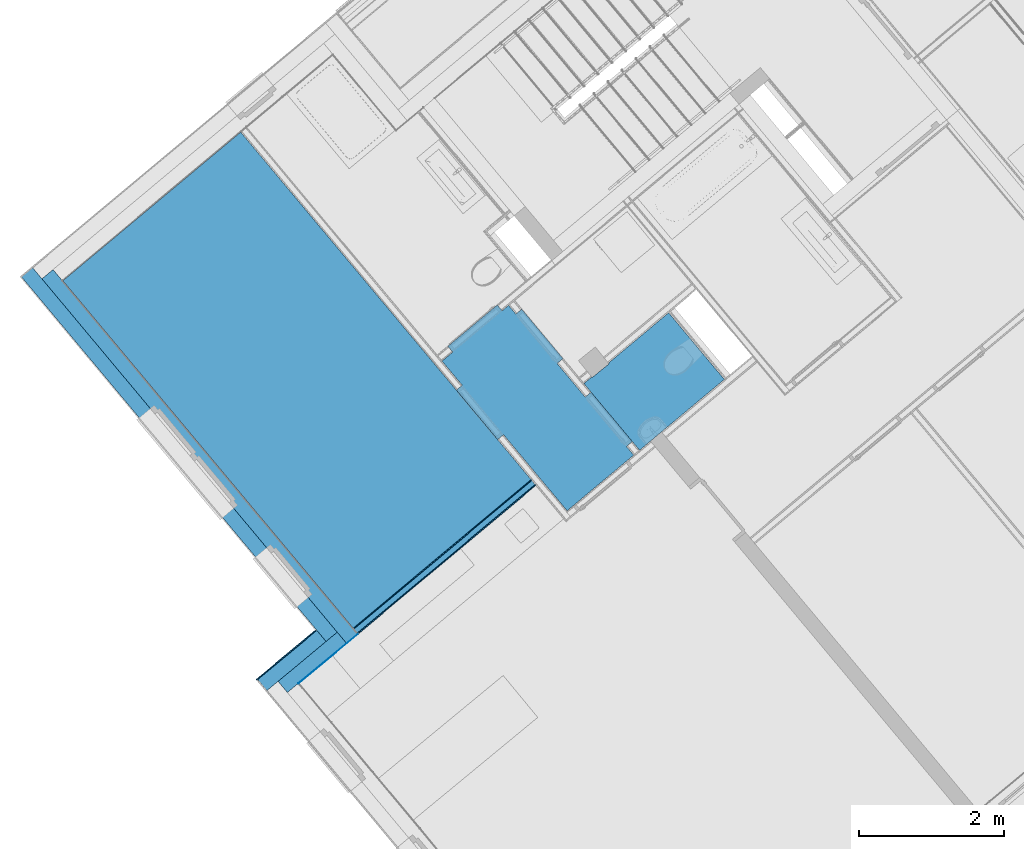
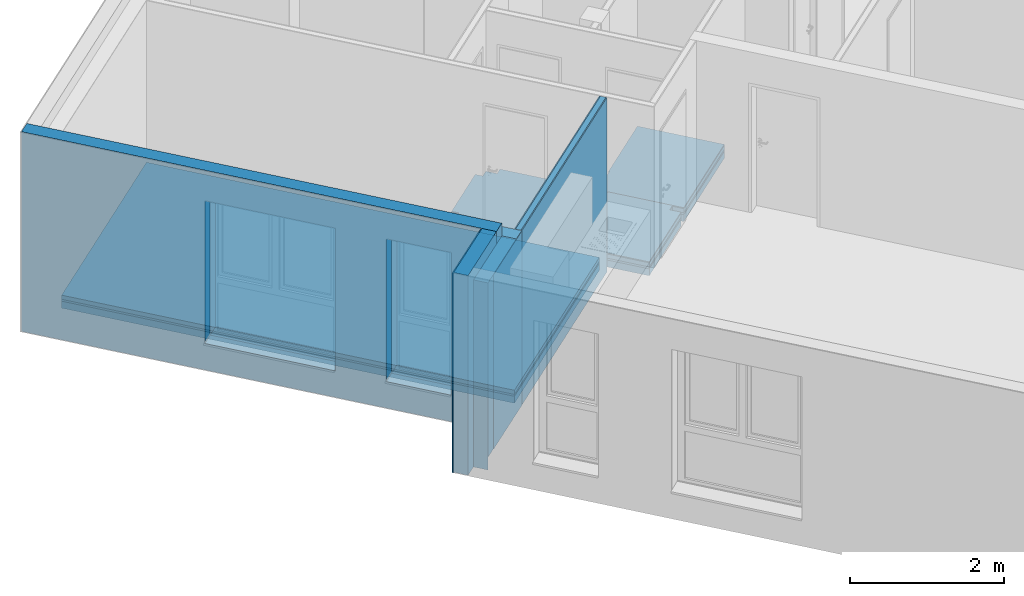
# One storey, part 23 of 50: 21 building element parts, 2 openings, 6 elements without a shape of their own.
"""IFC4 building model written with IfcOpenShell, lengths in metres."""

from ifc_helpers import new_model, entity, si_unit, converted_unit, derived_unit, direction, frame, origin_with_axes, place, context, subcontext, project, spatial, polygons, material, type_object, element, aggregate, save


model = new_model("IFC4")

# Units and contexts
model_context = context("Model", 3, precision=1e-05, world=origin_with_axes(), true_north=direction((0.0, 1.0)))
body_context = subcontext(model_context, "Body", "Model", "MODEL_VIEW")
ifc_project = project(units=[si_unit("LENGTHUNIT", "METRE"), si_unit("AREAUNIT", "SQUARE_METRE"), si_unit("VOLUMEUNIT", "CUBIC_METRE"), converted_unit("PLANEANGLEUNIT", "DEGREE", entity("IfcPlaneAngleMeasure", 0.0174532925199), si_unit("PLANEANGLEUNIT", "RADIAN"), dimensions=[0, 0, 0, 0, 0, 0, 0]), converted_unit("TIMEUNIT", "Year", entity("IfcTimeMeasure", 31556926.0), si_unit("TIMEUNIT", "SECOND"), dimensions=[0, 0, 1, 0, 0, 0, 0]), si_unit("MASSUNIT", "GRAM", prefix="KILO"), si_unit("THERMODYNAMICTEMPERATUREUNIT", "DEGREE_CELSIUS"), si_unit("LUMINOUSINTENSITYUNIT", "LUMEN"), si_unit("ENERGYUNIT", "JOULE", prefix="MEGA"), derived_unit("THERMALCONDUCTANCEUNIT", [(si_unit("POWERUNIT", "WATT"), 1), (si_unit("LENGTHUNIT", "METRE"), -1), (si_unit("THERMODYNAMICTEMPERATUREUNIT", "KELVIN"), -1)]), derived_unit("SPECIFICHEATCAPACITYUNIT", [(si_unit("ENERGYUNIT", "JOULE"), 1), (si_unit("MASSUNIT", "GRAM", prefix="KILO"), -1), (si_unit("THERMODYNAMICTEMPERATUREUNIT", "KELVIN"), -1)]), derived_unit("MASSDENSITYUNIT", [(si_unit("MASSUNIT", "GRAM", prefix="KILO"), 1), (si_unit("VOLUMEUNIT", "CUBIC_METRE"), -1)])], contexts=[model_context])

# Site, building, storey
site_placement = place(None, frame((-0.00153261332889, -0.00661245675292, 0.0), z_axis=(0.0, 0.0, 1.0), x_axis=(1.0, 0.0, 0.0)))
site = spatial("IfcSite", under=ifc_project, at=site_placement, Name="Site", CompositionType="ELEMENT")
building_placement = place(site_placement, origin_with_axes())
building = spatial("IfcBuilding", under=site, at=building_placement, Name="Building", CompositionType="ELEMENT")
storey_placement = place(building_placement, frame((0.0, 0.0, 2.74), z_axis=(0.0, 0.0, 1.0), x_axis=(1.0, 0.0, 0.0)))
storey = spatial("IfcBuildingStorey", under=building, at=storey_placement, Name="OG1", CompositionType="ELEMENT", Elevation=2.74)

# Wall, building element parts
wall_type_1 = type_object("IfcWallType", Name="IW LB 01 Leichtbautrennwand einfach 10,5 cm 105", PredefinedType="NOTDEFINED")
wall_1_placement = place(storey_placement, frame((-2.49988703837, 17.264591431, 0.0), z_axis=(0.0, 0.0, 1.0), x_axis=(-0.767365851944, -0.641209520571, 0.0)))
wall_1 = element("IfcWall", 1, at=wall_1_placement, inside=storey, type_object=wall_type_1, Name="Wand-012", PredefinedType="NOTDEFINED")
ifc_material_1 = material(Name="Gipskarton")
building_element_part_1_placement = place(wall_1_placement, origin_with_axes())
building_element_part_1 = element("IfcBuildingElementPart", 2, at=building_element_part_1_placement, material=ifc_material_1, Name="Gipskarton", PredefinedType="NOTDEFINED", context=body_context, shape_type="Tessellation", body=[
    polygons([(3.20025354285, 0.105, 0.0), (3.20025354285, 0.09, 0.0), (0.0, 0.09, 0.0), (0.0, 0.105, 0.0), (3.20025354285, 0.105, 2.76), (3.20025354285, 0.09, 2.76), (0.0, 0.09, 2.76), (0.0, 0.105, 2.76)], [[[1, 2, 3, 4]], [[1, 5, 6, 2]], [[2, 6, 7, 3]], [[4, 3, 7, 8]], [[5, 1, 4, 8]], [[6, 5, 8, 7]]], closed=True),
])
ifc_material_2 = material(Name="Mineralwolle weich")
building_element_part_2_placement = place(wall_1_placement, origin_with_axes())
building_element_part_2 = element("IfcBuildingElementPart", 3, at=building_element_part_2_placement, material=ifc_material_2, Name="Mineralwolle weich", PredefinedType="NOTDEFINED", context=body_context, shape_type="Tessellation", body=[
    polygons([(3.20025354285, 0.09, 0.0), (3.20025354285, 0.015, 0.0), (0.0, 0.015, 0.0), (0.0, 0.09, 0.0), (3.20025354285, 0.09, 2.76), (3.20025354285, 0.015, 2.76), (0.0, 0.015, 2.76), (0.0, 0.09, 2.76)], [[[1, 2, 3, 4]], [[1, 5, 6, 2]], [[2, 6, 7, 3]], [[4, 3, 7, 8]], [[5, 1, 4, 8]], [[6, 5, 8, 7]]], closed=True),
])
building_element_part_3_placement = place(wall_1_placement, origin_with_axes())
building_element_part_3 = element("IfcBuildingElementPart", 4, at=building_element_part_3_placement, material=ifc_material_1, Name="Gipskarton", PredefinedType="NOTDEFINED", context=body_context, shape_type="Tessellation", body=[
    polygons([(3.20025354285, 0.015, 0.0), (3.20025354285, 0.0, 0.0), (0.0, 0.0, 0.0), (0.0, 0.015, 0.0), (3.20025354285, 0.015, 2.76), (3.20025354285, 0.0, 2.76), (0.0, 0.0, 2.76), (0.0, 0.015, 2.76)], [[[1, 2, 3, 4]], [[1, 5, 6, 2]], [[2, 6, 7, 3]], [[4, 3, 7, 8]], [[5, 1, 4, 8]], [[6, 5, 8, 7]]], closed=True),
])
aggregate(wall_1, [building_element_part_1, building_element_part_2, building_element_part_3])

# Wall, openings, building element parts
wall_type_2 = type_object("IfcWallType", Name="AW EG 420", PredefinedType="NOTDEFINED")
wall_2_placement = place(storey_placement, frame((-9.41819565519, 19.8980836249, -0.2), z_axis=(0.0, 0.0, 1.0), x_axis=(0.641209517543, -0.767365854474, 0.0)))
wall_2 = element("IfcWall", 5, at=wall_2_placement, inside=storey, type_object=wall_type_2, Name="Wand-002", PredefinedType="NOTDEFINED")
opening_1_placement = place(wall_2_placement, frame((3.23195130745, 0.0, 0.42), z_axis=(0.0, 0.0, 1.0), x_axis=(1.0, 0.0, 0.0)))
element("IfcOpeningElement", 6, at=opening_1_placement, cuts=wall_2, Name="Fenster-001", context=body_context, identifier="Reference", shape_type="Tessellation", body=[
    polygons([(0.9, 0.215, 0.0), (0.9, 0.215, 2.26), (0.9, -3.02322744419, 2.26), (0.9, -3.02322744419, 0.0), (0.9, 3.44322744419, 0.0), (0.9, 3.44322744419, 2.26), (-0.9, 0.215, 2.26), (-0.9, -3.02322744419, 2.26), (-0.9, 3.44322744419, 2.26), (-0.9, -3.02322744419, 0.0), (-0.9, 0.215, 0.0), (-0.9, 3.44322744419, 0.0)], [[[1, 2, 3, 4]], [[2, 1, 5, 6]], [[7, 8, 3, 2, 6, 9]], [[8, 10, 4, 3]], [[1, 4, 10, 11, 12, 5]], [[6, 5, 12, 9]], [[7, 11, 10, 8]], [[11, 7, 9, 12]]], closed=True),
])
opening_2_placement = place(wall_2_placement, frame((5.28601932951, 0.0, 0.42), z_axis=(0.0, 0.0, 1.0), x_axis=(1.0, 0.0, 0.0)))
element("IfcOpeningElement", 7, at=opening_2_placement, cuts=wall_2, Name="Fenster-001", context=body_context, identifier="Reference", shape_type="Tessellation", body=[
    polygons([(0.45, 0.215, 0.0), (0.45, 0.215, 2.26), (0.45, -3.02322744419, 2.26), (0.45, -3.02322744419, 0.0), (0.45, 3.44322744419, 0.0), (0.45, 3.44322744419, 2.26), (-0.45, 0.215, 2.26), (-0.45, -3.02322744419, 2.26), (-0.45, 3.44322744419, 2.26), (-0.45, -3.02322744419, 0.0), (-0.45, 0.215, 0.0), (-0.45, 3.44322744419, 0.0)], [[[1, 2, 3, 4]], [[2, 1, 5, 6]], [[7, 8, 3, 2, 6, 9]], [[8, 10, 4, 3]], [[1, 4, 10, 11, 12, 5]], [[6, 5, 12, 9]], [[7, 11, 10, 8]], [[11, 7, 9, 12]]], closed=True),
])
ifc_material_3 = material(Name="Stahlbeton Wand")
building_element_part_4_placement = place(wall_2_placement, origin_with_axes())
building_element_part_4 = element("IfcBuildingElementPart", 8, at=building_element_part_4_placement, material=ifc_material_3, Name="Stahlbeton Wand", PredefinedType="NOTDEFINED", context=body_context, shape_type="Tessellation", body=[
    polygons([(6.35775052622, 0.215, 2.96), (3.41079591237e-08, 0.214999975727, 2.96), (3.41079591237e-08, 0.214999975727, 0.2), (6.35154585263, 0.215000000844, 0.2), (6.55775115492, 0.215, 0.2), (6.55775115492, 0.215, 2.96), (2.33195130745, 0.215, 2.68), (4.13195130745, 0.215, 2.68), (4.13195130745, 0.215, 0.42), (2.33195130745, 0.215, 0.42), (4.83601932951, 0.215, 0.42), (4.83601932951, 0.215, 2.68), (5.73601932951, 0.215, 2.68), (5.73601932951, 0.215, 0.42), (6.55825263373, 0.415, 2.96), (8.15811869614e-07, 0.415000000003, 2.96), (3.33203509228e-08, 0.415, 0.2), (6.55825263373, 0.415, 0.2), (4.13195130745, 0.415000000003, 2.68), (2.33195130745, 0.415000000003, 2.68), (4.13195130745, 0.415000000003, 0.42), (2.33195130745, 0.415000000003, 0.42), (4.83601932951, 0.415, 0.42), (4.83601932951, 0.415, 2.68), (5.73601932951, 0.415, 2.68), (5.73601932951, 0.415, 0.42)], [[[1, 2, 3, 4, 5, 6], [7, 8, 9, 10], [11, 12, 13, 14]], [[1, 6, 15, 16, 2]], [[17, 3, 2, 16]], [[17, 18, 5, 4, 3]], [[5, 18, 15, 6]], [[19, 8, 7, 20]], [[21, 9, 8, 19]], [[22, 10, 9, 21]], [[20, 7, 10, 22]], [[23, 24, 12, 11]], [[24, 25, 13, 12]], [[25, 26, 14, 13]], [[26, 23, 11, 14]], [[18, 17, 16, 15], [21, 19, 20, 22], [23, 26, 25, 24]]], closed=True),
])
ifc_material_4 = material(Name="EPS 1")
building_element_part_5_placement = place(wall_2_placement, origin_with_axes())
building_element_part_5 = element("IfcBuildingElementPart", 9, at=building_element_part_5_placement, material=ifc_material_4, Name="EPS 1", PredefinedType="NOTDEFINED", context=body_context, shape_type="Tessellation", body=[
    polygons([(6.35167609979, 0.015, 0.2), (6.35724904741, 0.015, 0.2), (6.35724904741, 0.015, 3.16), (-0.199999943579, 0.015, 3.16), (-0.199999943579, 0.015, 0.0), (6.35167609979, 0.015, 0.0), (2.33195130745, 0.015, 2.68), (4.13195130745, 0.015, 2.68), (4.13195130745, 0.015, 0.42), (2.33195130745, 0.015, 0.42), (4.83601932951, 0.015, 0.42), (4.83601932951, 0.015, 2.68), (5.73601932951, 0.015, 2.68), (5.73601932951, 0.015, 0.42), (6.35154585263, 0.215000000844, 0.2), (6.35775052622, 0.215, 0.2), (6.35775052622, 0.215, 3.16), (-0.199999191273, 0.215, 3.16), (-0.199999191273, 0.215, 0.0), (6.35154585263, 0.215000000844, 0.0), (4.13195130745, 0.215, 2.68), (2.33195130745, 0.215, 2.68), (4.13195130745, 0.215, 0.42), (2.33195130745, 0.215, 0.42), (4.83601932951, 0.215, 0.42), (4.83601932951, 0.215, 2.68), (5.73601932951, 0.215, 2.68), (5.73601932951, 0.215, 0.42)], [[[1, 2, 3, 4, 5, 6], [7, 8, 9, 10], [11, 12, 13, 14]], [[2, 1, 15, 16]], [[17, 3, 2, 16]], [[18, 4, 3, 17]], [[5, 4, 18, 19]], [[5, 19, 20, 6]], [[15, 1, 6, 20]], [[21, 8, 7, 22]], [[23, 9, 8, 21]], [[24, 10, 9, 23]], [[22, 7, 10, 24]], [[25, 26, 12, 11]], [[26, 27, 13, 12]], [[27, 28, 14, 13]], [[28, 25, 11, 14]], [[15, 20, 19, 18, 17, 16], [23, 21, 22, 24], [25, 28, 27, 26]]], closed=True),
])
aggregate(wall_2, [building_element_part_4, building_element_part_5])

# Wall, building element parts
wall_3_placement = place(storey_placement, frame((-5.47975165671, 15.1847608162, -0.2), z_axis=(0.0, 0.0, 1.0), x_axis=(-0.768971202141, -0.639283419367, 0.0)))
wall_3 = element("IfcWall", 10, at=wall_3_placement, inside=storey, type_object=wall_type_2, Name="Wand-002", PredefinedType="NOTDEFINED")
ifc_material_5 = material(Name="Zementputz")
building_element_part_6_placement = place(wall_3_placement, origin_with_axes())
building_element_part_6 = element("IfcBuildingElementPart", 11, at=building_element_part_6_placement, material=ifc_material_5, Name="Zementputz", PredefinedType="NOTDEFINED", context=body_context, shape_type="Tessellation", body=[
    polygons([(-0.41604187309, 0.415, 2.96), (-0.41605441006, 0.42, 2.96), (-0.41605441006, 0.42, 0.2), (-0.41604187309, 0.415, 0.2), (0.6457611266, 0.42, 2.96), (0.645771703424, 0.415, 2.96), (0.6457611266, 0.42, 0.2), (0.645771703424, 0.415, 0.2)], [[[1, 2, 3, 4]], [[5, 2, 1, 6]], [[2, 5, 7, 3]], [[4, 3, 7, 8]], [[6, 1, 4, 8]], [[5, 6, 8, 7]]], closed=True),
])
building_element_part_7_placement = place(wall_3_placement, origin_with_axes())
building_element_part_7 = element("IfcBuildingElementPart", 12, at=building_element_part_7_placement, material=ifc_material_3, Name="Stahlbeton Wand", PredefinedType="NOTDEFINED", context=body_context, shape_type="Tessellation", body=[
    polygons([(-0.215539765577, 0.215, 2.96), (-0.216041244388, 0.415, 2.96), (-0.216041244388, 0.415, 0.2), (-0.215539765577, 0.215, 0.2), (0.8457721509, 0.415, 2.96), (0.846195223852, 0.215, 2.96), (0.8457721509, 0.415, 0.0), (0.845610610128, 0.415, 0.0), (0.845610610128, 0.415, 0.2), (0.846111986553, 0.215, 0.2), (0.846111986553, 0.215, 0.0), (0.846195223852, 0.215, 0.0)], [[[1, 2, 3, 4]], [[5, 2, 1, 6]], [[2, 5, 7, 8, 9, 3]], [[4, 3, 9, 10]], [[6, 1, 4, 10, 11, 12]], [[5, 6, 12, 7]], [[11, 8, 7, 12]], [[9, 8, 11, 10]]], closed=True),
])
building_element_part_8_placement = place(wall_3_placement, origin_with_axes())
building_element_part_8 = element("IfcBuildingElementPart", 13, at=building_element_part_8_placement, material=ifc_material_4, Name="EPS 1", PredefinedType="NOTDEFINED", context=body_context, shape_type="Tessellation", body=[
    polygons([(0.846111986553, 0.215, 0.0), (0.846111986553, 0.215, 0.2), (-0.0155391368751, 0.215, 0.2), (-0.0155391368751, 0.215, 3.16), (1.04619567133, 0.215, 3.16), (1.04619567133, 0.215, 0.0), (0.846119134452, 0.212148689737, 0.0), (0.846119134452, 0.212148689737, 0.2), (-0.0155251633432, 0.209427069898, 0.2), (-0.0155251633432, 0.209427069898, 0.0), (-0.0150376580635, 0.015, 0.0), (-0.0150376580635, 0.015, 3.16), (1.04661874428, 0.015, 3.16), (1.04661874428, 0.015, 0.0)], [[[1, 2, 3, 4, 5, 6]], [[2, 1, 7, 8]], [[9, 3, 2, 8]], [[9, 10, 11, 12, 4, 3]], [[13, 5, 4, 12]], [[14, 6, 5, 13]], [[7, 1, 6, 14, 11, 10]], [[10, 9, 8, 7]], [[14, 13, 12, 11]]], closed=True),
])
building_element_part_9_placement = place(wall_3_placement, origin_with_axes())
building_element_part_9 = element("IfcBuildingElementPart", 14, at=building_element_part_9_placement, material=ifc_material_5, Name="Zementputz", PredefinedType="NOTDEFINED", context=body_context, shape_type="Tessellation", body=[
    polygons([(1.06161877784, 0.015, 0.0), (1.06165050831, 0.0, 0.0), (0.0, 0.0, 0.0), (-3.76109108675e-05, 0.015, 0.0), (1.06161877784, 0.015, 3.16), (1.06165050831, 0.0, 3.16), (0.0, 0.0, 3.16), (-3.76109108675e-05, 0.015, 3.16)], [[[1, 2, 3, 4]], [[2, 1, 5, 6]], [[2, 6, 7, 3]], [[8, 4, 3, 7]], [[5, 1, 4, 8]], [[6, 5, 8, 7]]], closed=True),
])
aggregate(wall_3, [building_element_part_6, building_element_part_7, building_element_part_8, building_element_part_9])

# Covering, building element parts
covering_type_1 = type_object("IfcCoveringType", Name="DE 01 Decke Wohnung/Wohnung Parkett 220", PredefinedType="NOTDEFINED")
covering_1_placement = place(storey_placement, frame((-8.96445404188, 20.0100816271, 0.22), z_axis=(0.0, 0.0, 1.0), x_axis=(1.0, 0.0, 0.0)))
covering_1 = element("IfcCovering", 15, at=covering_1_placement, inside=storey, type_object=covering_type_1, Name="Decke-009", PredefinedType="NOTDEFINED")
ifc_material_6 = material(Name="Parkett")
building_element_part_10_placement = place(covering_1_placement, origin_with_axes())
building_element_part_10 = element("IfcBuildingElementPart", 16, at=building_element_part_10_placement, material=ifc_material_6, Name="Parkett", PredefinedType="NOTDEFINED", context=body_context, shape_type="Tessellation", body=[
    polygons([(0.0, 0.0, 0.0), (0.0, 0.0, -0.015), (4.00880176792, -4.79752323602, -0.015), (4.00880176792, -4.79752323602, 0.0), (2.45576526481, 2.05203299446, 0.0), (2.45576526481, 2.05203299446, -0.015), (6.4645670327, -2.74549024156, -0.015), (6.4645670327, -2.74549024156, 0.0)], [[[1, 2, 3, 4]], [[5, 6, 2, 1]], [[3, 2, 6, 7]], [[4, 3, 7, 8]], [[5, 1, 4, 8]], [[8, 7, 6, 5]]], closed=True),
])
ifc_material_7 = material(Name="Estrich")
building_element_part_11_placement = place(covering_1_placement, origin_with_axes())
building_element_part_11 = element("IfcBuildingElementPart", 17, at=building_element_part_11_placement, material=ifc_material_7, Name="Estrich", PredefinedType="NOTDEFINED", context=body_context, shape_type="Tessellation", body=[
    polygons([(0.0, 0.0, -0.015), (0.0, 0.0, -0.08), (4.00880176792, -4.79752323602, -0.08), (4.00880176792, -4.79752323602, -0.015), (2.45576526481, 2.05203299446, -0.015), (2.45576526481, 2.05203299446, -0.08), (6.4645670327, -2.74549024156, -0.08), (6.4645670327, -2.74549024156, -0.015)], [[[1, 2, 3, 4]], [[5, 6, 2, 1]], [[3, 2, 6, 7]], [[4, 3, 7, 8]], [[5, 1, 4, 8]], [[8, 7, 6, 5]]], closed=True),
])
ifc_material_8 = material(Name="Trittschalldämmung")
building_element_part_12_placement = place(covering_1_placement, origin_with_axes())
building_element_part_12 = element("IfcBuildingElementPart", 18, at=building_element_part_12_placement, material=ifc_material_8, Name="Trittschalldämmung", PredefinedType="NOTDEFINED", context=body_context, shape_type="Tessellation", body=[
    polygons([(0.0, 0.0, -0.08), (0.0, 0.0, -0.11), (4.00880176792, -4.79752323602, -0.11), (4.00880176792, -4.79752323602, -0.08), (2.45576526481, 2.05203299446, -0.08), (2.45576526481, 2.05203299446, -0.11), (6.4645670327, -2.74549024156, -0.11), (6.4645670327, -2.74549024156, -0.08)], [[[1, 2, 3, 4]], [[5, 6, 2, 1]], [[3, 2, 6, 7]], [[4, 3, 7, 8]], [[5, 1, 4, 8]], [[8, 7, 6, 5]]], closed=True),
])
ifc_material_9 = material(Name="Schüttung")
building_element_part_13_placement = place(covering_1_placement, origin_with_axes())
building_element_part_13 = element("IfcBuildingElementPart", 19, at=building_element_part_13_placement, material=ifc_material_9, Name="Schüttung", PredefinedType="NOTDEFINED", context=body_context, shape_type="Tessellation", body=[
    polygons([(4.00880176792, -4.79752323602, -0.11), (0.0, 0.0, -0.11), (0.0, 0.0, -0.22), (4.00880176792, -4.79752323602, -0.22), (2.45576526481, 2.05203299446, -0.11), (6.4645670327, -2.74549024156, -0.11), (2.45576526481, 2.05203299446, -0.22), (6.4645670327, -2.74549024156, -0.22)], [[[1, 2, 3, 4]], [[5, 2, 1, 6]], [[2, 5, 7, 3]], [[4, 3, 7, 8]], [[6, 1, 4, 8]], [[5, 6, 8, 7]]], closed=True),
])
aggregate(covering_1, [building_element_part_10, building_element_part_11, building_element_part_12, building_element_part_13])

covering_type_2 = type_object("IfcCoveringType", Name="DE 01 Decke Wohnung/Wohnung Fließen 220", PredefinedType="NOTDEFINED")
covering_2_placement = place(storey_placement, frame((-1.77122830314, 18.5900910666, 0.22), z_axis=(0.0, 0.0, 1.0), x_axis=(1.0, 0.0, 0.0)))
covering_2 = element("IfcCovering", 20, at=covering_2_placement, inside=storey, type_object=covering_type_2, Name="Decke-004", PredefinedType="NOTDEFINED")
ifc_material_10 = material(Name="Fliesen")
building_element_part_14_placement = place(covering_2_placement, origin_with_axes())
building_element_part_14 = element("IfcBuildingElementPart", 21, at=building_element_part_14_placement, material=ifc_material_10, Name="Fliesen", PredefinedType="NOTDEFINED", context=body_context, shape_type="Tessellation", body=[
    polygons([(0.769373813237, -0.920746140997, -0.015), (0.769373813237, -0.920746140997, 0.0), (0.0, 0.0, 0.0), (0.0, 0.0, -0.015), (1.94013256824, 0.0575377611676, -0.015), (1.94013256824, 0.0575377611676, 0.0), (1.170758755, 0.978283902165, 0.0), (0.338580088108, 0.282916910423, 0.0), (0.34712229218, 0.272377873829, 0.0), (0.114063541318, 0.0834767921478, 0.0), (0.108344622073, 0.0905325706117, 0.0), (0.108344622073, 0.0905325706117, -0.015), (0.114063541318, 0.0834767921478, -0.015), (0.34712229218, 0.272377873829, -0.015), (0.338580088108, 0.282916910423, -0.015), (1.170758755, 0.978283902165, -0.015)], [[[1, 2, 3, 4]], [[5, 6, 2, 1]], [[3, 2, 6, 7, 8, 9, 10, 11]], [[4, 3, 11, 12]], [[4, 12, 13, 14, 15, 16, 5, 1]], [[16, 7, 6, 5]], [[15, 8, 7, 16]], [[14, 9, 8, 15]], [[13, 10, 9, 14]], [[12, 11, 10, 13]]], closed=True),
])
building_element_part_15_placement = place(covering_2_placement, origin_with_axes())
building_element_part_15 = element("IfcBuildingElementPart", 22, at=building_element_part_15_placement, material=ifc_material_7, Name="Estrich", PredefinedType="NOTDEFINED", context=body_context, shape_type="Tessellation", body=[
    polygons([(0.769373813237, -0.920746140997, -0.08), (0.769373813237, -0.920746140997, -0.015), (0.0, 0.0, -0.015), (0.0, 0.0, -0.08), (1.94013256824, 0.0575377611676, -0.08), (1.94013256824, 0.0575377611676, -0.015), (1.170758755, 0.978283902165, -0.015), (0.338580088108, 0.282916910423, -0.015), (0.34712229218, 0.272377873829, -0.015), (0.114063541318, 0.0834767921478, -0.015), (0.108344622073, 0.0905325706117, -0.015), (0.108344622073, 0.0905325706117, -0.08), (0.114063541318, 0.0834767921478, -0.08), (0.34712229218, 0.272377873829, -0.08), (0.338580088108, 0.282916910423, -0.08), (1.170758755, 0.978283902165, -0.08)], [[[1, 2, 3, 4]], [[5, 6, 2, 1]], [[3, 2, 6, 7, 8, 9, 10, 11]], [[4, 3, 11, 12]], [[4, 12, 13, 14, 15, 16, 5, 1]], [[16, 7, 6, 5]], [[15, 8, 7, 16]], [[14, 9, 8, 15]], [[13, 10, 9, 14]], [[12, 11, 10, 13]]], closed=True),
])
building_element_part_16_placement = place(covering_2_placement, origin_with_axes())
building_element_part_16 = element("IfcBuildingElementPart", 23, at=building_element_part_16_placement, material=ifc_material_8, Name="Trittschalldämmung", PredefinedType="NOTDEFINED", context=body_context, shape_type="Tessellation", body=[
    polygons([(0.769373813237, -0.920746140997, -0.11), (0.769373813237, -0.920746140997, -0.08), (0.0, 0.0, -0.08), (0.0, 0.0, -0.11), (1.94013256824, 0.0575377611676, -0.11), (1.94013256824, 0.0575377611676, -0.08), (1.170758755, 0.978283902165, -0.08), (0.338580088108, 0.282916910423, -0.08), (0.34712229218, 0.272377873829, -0.08), (0.114063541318, 0.0834767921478, -0.08), (0.108344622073, 0.0905325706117, -0.08), (0.108344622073, 0.0905325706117, -0.11), (0.114063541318, 0.0834767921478, -0.11), (0.34712229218, 0.272377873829, -0.11), (0.338580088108, 0.282916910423, -0.11), (1.170758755, 0.978283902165, -0.11)], [[[1, 2, 3, 4]], [[5, 6, 2, 1]], [[3, 2, 6, 7, 8, 9, 10, 11]], [[4, 3, 11, 12]], [[4, 12, 13, 14, 15, 16, 5, 1]], [[16, 7, 6, 5]], [[15, 8, 7, 16]], [[14, 9, 8, 15]], [[13, 10, 9, 14]], [[12, 11, 10, 13]]], closed=True),
])
building_element_part_17_placement = place(covering_2_placement, origin_with_axes())
building_element_part_17 = element("IfcBuildingElementPart", 24, at=building_element_part_17_placement, material=ifc_material_9, Name="Schüttung", PredefinedType="NOTDEFINED", context=body_context, shape_type="Tessellation", body=[
    polygons([(0.0, 0.0, -0.22), (0.769373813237, -0.920746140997, -0.22), (0.769373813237, -0.920746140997, -0.11), (0.0, 0.0, -0.11), (0.108344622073, 0.0905325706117, -0.22), (0.114063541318, 0.0834767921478, -0.22), (0.34712229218, 0.272377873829, -0.22), (0.338580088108, 0.282916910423, -0.22), (1.170758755, 0.978283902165, -0.22), (1.94013256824, 0.0575377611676, -0.22), (1.94013256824, 0.0575377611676, -0.11), (1.170758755, 0.978283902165, -0.11), (0.338580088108, 0.282916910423, -0.11), (0.34712229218, 0.272377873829, -0.11), (0.114063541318, 0.0834767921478, -0.11), (0.108344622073, 0.0905325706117, -0.11)], [[[1, 2, 3, 4]], [[1, 5, 6, 7, 8, 9, 10, 2]], [[2, 10, 11, 3]], [[4, 3, 11, 12, 13, 14, 15, 16]], [[5, 1, 4, 16]], [[6, 5, 16, 15]], [[7, 6, 15, 14]], [[8, 7, 14, 13]], [[9, 8, 13, 12]], [[10, 9, 12, 11]]], closed=True),
])
aggregate(covering_2, [building_element_part_14, building_element_part_15, building_element_part_16, building_element_part_17])

covering_3_placement = place(storey_placement, frame((-3.58229735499, 19.0241226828, 0.22), z_axis=(0.0, 0.0, 1.0), x_axis=(1.0, 0.0, 0.0)))
covering_3 = element("IfcCovering", 25, at=covering_3_placement, inside=storey, type_object=covering_type_2, Name="Decke-003", PredefinedType="NOTDEFINED")
building_element_part_18_placement = place(covering_3_placement, origin_with_axes())
building_element_part_18 = element("IfcBuildingElementPart", 26, at=building_element_part_18_placement, material=ifc_material_10, Name="Fliesen", PredefinedType="NOTDEFINED", context=body_context, shape_type="Tessellation", body=[
    polygons([(0.772026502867, 0.645686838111, -0.015), (0.772026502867, 0.645686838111, 0.0), (0.871992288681, 0.526053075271, 0.0), (0.871992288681, 0.526053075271, -0.015), (0.682704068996, 0.570977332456, 0.0), (0.682704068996, 0.570977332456, -0.015), (0.6825988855, 0.57110308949, 0.0), (0.615338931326, 0.651518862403, 0.0), (-0.0673464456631, 0.0805191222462, 0.0), (-1.94673654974e-08, -1.62825521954e-08, 0.0), (1.87046381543e-05, -2.24027601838e-05, 0.0), (-0.147735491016, -0.123604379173, 0.0), (0.13108354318, -0.457280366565, 0.0), (0.0505101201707, -0.524607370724, 0.0), (0.621186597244, -1.20756298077, 0.0), (0.701760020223, -1.14023597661, 0.0), (1.57974343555, -2.1909603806, 0.0), (2.49986944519, -1.42210479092, 0.0), (2.40026170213, -1.30289938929, 0.0), (2.48083508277, -1.23557242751, 0.0), (1.91015864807, -0.552616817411, 0.0), (1.82958522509, -0.61994382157, 0.0), (1.44266872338, -0.156902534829, 0.0), (1.52324214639, -0.0895755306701, 0.0), (0.952565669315, 0.59338007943, 0.0), (0.952565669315, 0.59338007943, -0.015), (1.52324214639, -0.0895755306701, -0.015), (1.44266872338, -0.156902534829, -0.015), (1.82958522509, -0.61994382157, -0.015), (1.91015864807, -0.552616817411, -0.015), (2.48083508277, -1.23557242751, -0.015), (2.40026170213, -1.30289938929, -0.015), (2.49986944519, -1.42210479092, -0.015), (1.57974343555, -2.1909603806, -0.015), (0.701760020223, -1.14023597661, -0.015), (0.621186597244, -1.20756298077, -0.015), (0.0505101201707, -0.524607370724, -0.015), (0.13108354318, -0.457280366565, -0.015), (-0.147735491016, -0.123604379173, -0.015), (1.87046381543e-05, -2.24027601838e-05, -0.015), (-1.94673654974e-08, -1.62825521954e-08, -0.015), (-0.0673464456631, 0.0805191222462, -0.015), (0.615338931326, 0.651518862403, -0.015), (0.6825988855, 0.57110308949, -0.015)], [[[1, 2, 3, 4]], [[5, 2, 1, 6]], [[5, 7, 8, 9, 10, 11, 12, 13, 14, 15, 16, 17, 18, 19, 20, 21, 22, 23, 24, 25, 3, 2]], [[26, 4, 3, 25]], [[6, 1, 4, 26, 27, 28, 29, 30, 31, 32, 33, 34, 35, 36, 37, 38, 39, 40, 41, 42, 43, 44]], [[7, 5, 6, 44]], [[7, 44, 43, 8]], [[43, 42, 9, 8]], [[41, 10, 9, 42]], [[11, 10, 41, 40]], [[12, 11, 40, 39]], [[12, 39, 38, 13]], [[38, 37, 14, 13]], [[37, 36, 15, 14]], [[36, 35, 16, 15]], [[35, 34, 17, 16]], [[34, 33, 18, 17]], [[33, 32, 19, 18]], [[32, 31, 20, 19]], [[31, 30, 21, 20]], [[30, 29, 22, 21]], [[29, 28, 23, 22]], [[28, 27, 24, 23]], [[27, 26, 25, 24]]], closed=True),
])
building_element_part_19_placement = place(covering_3_placement, origin_with_axes())
building_element_part_19 = element("IfcBuildingElementPart", 27, at=building_element_part_19_placement, material=ifc_material_7, Name="Estrich", PredefinedType="NOTDEFINED", context=body_context, shape_type="Tessellation", body=[
    polygons([(0.772026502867, 0.645686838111, -0.08), (0.772026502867, 0.645686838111, -0.015), (0.871992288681, 0.526053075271, -0.015), (0.871992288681, 0.526053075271, -0.08), (0.682704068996, 0.570977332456, -0.015), (0.682704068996, 0.570977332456, -0.08), (0.6825988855, 0.57110308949, -0.015), (0.615338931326, 0.651518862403, -0.015), (-0.0673464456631, 0.0805191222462, -0.015), (-1.94673654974e-08, -1.62825521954e-08, -0.015), (1.87046381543e-05, -2.24027601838e-05, -0.015), (-0.147735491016, -0.123604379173, -0.015), (0.13108354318, -0.457280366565, -0.015), (0.0505101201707, -0.524607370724, -0.015), (0.621186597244, -1.20756298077, -0.015), (0.701760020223, -1.14023597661, -0.015), (1.57974343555, -2.1909603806, -0.015), (2.49986944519, -1.42210479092, -0.015), (2.40026170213, -1.30289938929, -0.015), (2.48083508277, -1.23557242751, -0.015), (1.91015864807, -0.552616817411, -0.015), (1.82958522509, -0.61994382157, -0.015), (1.44266872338, -0.156902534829, -0.015), (1.52324214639, -0.0895755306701, -0.015), (0.952565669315, 0.59338007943, -0.015), (0.952565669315, 0.59338007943, -0.08), (1.52324214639, -0.0895755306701, -0.08), (1.44266872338, -0.156902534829, -0.08), (1.82958522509, -0.61994382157, -0.08), (1.91015864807, -0.552616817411, -0.08), (2.48083508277, -1.23557242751, -0.08), (2.40026170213, -1.30289938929, -0.08), (2.49986944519, -1.42210479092, -0.08), (1.57974343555, -2.1909603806, -0.08), (0.701760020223, -1.14023597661, -0.08), (0.621186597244, -1.20756298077, -0.08), (0.0505101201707, -0.524607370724, -0.08), (0.13108354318, -0.457280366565, -0.08), (-0.147735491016, -0.123604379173, -0.08), (1.87046381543e-05, -2.24027601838e-05, -0.08), (-1.94673654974e-08, -1.62825521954e-08, -0.08), (-0.0673464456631, 0.0805191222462, -0.08), (0.615338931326, 0.651518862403, -0.08), (0.6825988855, 0.57110308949, -0.08)], [[[1, 2, 3, 4]], [[5, 2, 1, 6]], [[5, 7, 8, 9, 10, 11, 12, 13, 14, 15, 16, 17, 18, 19, 20, 21, 22, 23, 24, 25, 3, 2]], [[26, 4, 3, 25]], [[6, 1, 4, 26, 27, 28, 29, 30, 31, 32, 33, 34, 35, 36, 37, 38, 39, 40, 41, 42, 43, 44]], [[7, 5, 6, 44]], [[7, 44, 43, 8]], [[43, 42, 9, 8]], [[41, 10, 9, 42]], [[11, 10, 41, 40]], [[12, 11, 40, 39]], [[12, 39, 38, 13]], [[38, 37, 14, 13]], [[37, 36, 15, 14]], [[36, 35, 16, 15]], [[35, 34, 17, 16]], [[34, 33, 18, 17]], [[33, 32, 19, 18]], [[32, 31, 20, 19]], [[31, 30, 21, 20]], [[30, 29, 22, 21]], [[29, 28, 23, 22]], [[28, 27, 24, 23]], [[27, 26, 25, 24]]], closed=True),
])
building_element_part_20_placement = place(covering_3_placement, origin_with_axes())
building_element_part_20 = element("IfcBuildingElementPart", 28, at=building_element_part_20_placement, material=ifc_material_8, Name="Trittschalldämmung", PredefinedType="NOTDEFINED", context=body_context, shape_type="Tessellation", body=[
    polygons([(0.772026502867, 0.645686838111, -0.11), (0.772026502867, 0.645686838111, -0.08), (0.871992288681, 0.526053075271, -0.08), (0.871992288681, 0.526053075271, -0.11), (0.682704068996, 0.570977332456, -0.08), (0.682704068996, 0.570977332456, -0.11), (0.6825988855, 0.57110308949, -0.08), (0.615338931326, 0.651518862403, -0.08), (-0.0673464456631, 0.0805191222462, -0.08), (-1.94673654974e-08, -1.62825521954e-08, -0.08), (1.87046381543e-05, -2.24027601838e-05, -0.08), (-0.147735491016, -0.123604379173, -0.08), (0.13108354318, -0.457280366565, -0.08), (0.0505101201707, -0.524607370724, -0.08), (0.621186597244, -1.20756298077, -0.08), (0.701760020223, -1.14023597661, -0.08), (1.57974343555, -2.1909603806, -0.08), (2.49986944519, -1.42210479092, -0.08), (2.40026170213, -1.30289938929, -0.08), (2.48083508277, -1.23557242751, -0.08), (1.91015864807, -0.552616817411, -0.08), (1.82958522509, -0.61994382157, -0.08), (1.44266872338, -0.156902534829, -0.08), (1.52324214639, -0.0895755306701, -0.08), (0.952565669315, 0.59338007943, -0.08), (0.952565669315, 0.59338007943, -0.11), (1.52324214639, -0.0895755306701, -0.11), (1.44266872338, -0.156902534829, -0.11), (1.82958522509, -0.61994382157, -0.11), (1.91015864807, -0.552616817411, -0.11), (2.48083508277, -1.23557242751, -0.11), (2.40026170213, -1.30289938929, -0.11), (2.49986944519, -1.42210479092, -0.11), (1.57974343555, -2.1909603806, -0.11), (0.701760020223, -1.14023597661, -0.11), (0.621186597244, -1.20756298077, -0.11), (0.0505101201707, -0.524607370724, -0.11), (0.13108354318, -0.457280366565, -0.11), (-0.147735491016, -0.123604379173, -0.11), (1.87046381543e-05, -2.24027601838e-05, -0.11), (-1.94673654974e-08, -1.62825521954e-08, -0.11), (-0.0673464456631, 0.0805191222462, -0.11), (0.615338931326, 0.651518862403, -0.11), (0.6825988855, 0.57110308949, -0.11)], [[[1, 2, 3, 4]], [[5, 2, 1, 6]], [[5, 7, 8, 9, 10, 11, 12, 13, 14, 15, 16, 17, 18, 19, 20, 21, 22, 23, 24, 25, 3, 2]], [[26, 4, 3, 25]], [[6, 1, 4, 26, 27, 28, 29, 30, 31, 32, 33, 34, 35, 36, 37, 38, 39, 40, 41, 42, 43, 44]], [[7, 5, 6, 44]], [[7, 44, 43, 8]], [[43, 42, 9, 8]], [[41, 10, 9, 42]], [[11, 10, 41, 40]], [[12, 11, 40, 39]], [[12, 39, 38, 13]], [[38, 37, 14, 13]], [[37, 36, 15, 14]], [[36, 35, 16, 15]], [[35, 34, 17, 16]], [[34, 33, 18, 17]], [[33, 32, 19, 18]], [[32, 31, 20, 19]], [[31, 30, 21, 20]], [[30, 29, 22, 21]], [[29, 28, 23, 22]], [[28, 27, 24, 23]], [[27, 26, 25, 24]]], closed=True),
])
building_element_part_21_placement = place(covering_3_placement, origin_with_axes())
building_element_part_21 = element("IfcBuildingElementPart", 29, at=building_element_part_21_placement, material=ifc_material_9, Name="Schüttung", PredefinedType="NOTDEFINED", context=body_context, shape_type="Tessellation", body=[
    polygons([(0.772026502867, 0.645686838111, -0.22), (0.772026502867, 0.645686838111, -0.11), (0.871992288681, 0.526053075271, -0.11), (0.871992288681, 0.526053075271, -0.22), (0.682704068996, 0.570977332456, -0.11), (0.682704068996, 0.570977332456, -0.22), (0.6825988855, 0.57110308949, -0.11), (0.615338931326, 0.651518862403, -0.11), (-0.0673464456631, 0.0805191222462, -0.11), (-1.94673654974e-08, -1.62825521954e-08, -0.11), (1.87046381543e-05, -2.24027601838e-05, -0.11), (-0.147735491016, -0.123604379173, -0.11), (0.13108354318, -0.457280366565, -0.11), (0.0505101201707, -0.524607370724, -0.11), (0.621186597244, -1.20756298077, -0.11), (0.701760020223, -1.14023597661, -0.11), (1.57974343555, -2.1909603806, -0.11), (2.49986944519, -1.42210479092, -0.11), (2.40026170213, -1.30289938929, -0.11), (2.48083508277, -1.23557242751, -0.11), (1.91015864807, -0.552616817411, -0.11), (1.82958522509, -0.61994382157, -0.11), (1.44266872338, -0.156902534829, -0.11), (1.52324214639, -0.0895755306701, -0.11), (0.952565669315, 0.59338007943, -0.11), (0.952565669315, 0.59338007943, -0.22), (1.52324214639, -0.0895755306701, -0.22), (1.44266872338, -0.156902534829, -0.22), (1.82958522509, -0.61994382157, -0.22), (1.91015864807, -0.552616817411, -0.22), (2.48083508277, -1.23557242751, -0.22), (2.40026170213, -1.30289938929, -0.22), (2.49986944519, -1.42210479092, -0.22), (1.57974343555, -2.1909603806, -0.22), (0.701760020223, -1.14023597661, -0.22), (0.621186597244, -1.20756298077, -0.22), (0.0505101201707, -0.524607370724, -0.22), (0.13108354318, -0.457280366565, -0.22), (-0.147735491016, -0.123604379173, -0.22), (1.87046381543e-05, -2.24027601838e-05, -0.22), (-1.94673659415e-08, -1.62825521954e-08, -0.22), (-0.0673464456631, 0.0805191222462, -0.22), (0.615338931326, 0.651518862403, -0.22), (0.682598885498, 0.571103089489, -0.22)], [[[1, 2, 3, 4]], [[5, 2, 1, 6]], [[5, 7, 8, 9, 10, 11, 12, 13, 14, 15, 16, 17, 18, 19, 20, 21, 22, 23, 24, 25, 3, 2]], [[25, 26, 4, 3]], [[6, 1, 4, 26, 27, 28, 29, 30, 31, 32, 33, 34, 35, 36, 37, 38, 39, 40, 41, 42, 43, 44]], [[7, 5, 6, 44]], [[7, 44, 43, 8]], [[8, 43, 42, 9]], [[41, 10, 9, 42]], [[11, 10, 41, 40]], [[12, 11, 40, 39]], [[12, 39, 38, 13]], [[13, 38, 37, 14]], [[14, 37, 36, 15]], [[15, 36, 35, 16]], [[16, 35, 34, 17]], [[17, 34, 33, 18]], [[18, 33, 32, 19]], [[19, 32, 31, 20]], [[20, 31, 30, 21]], [[21, 30, 29, 22]], [[22, 29, 28, 23]], [[23, 28, 27, 24]], [[24, 27, 26, 25]]], closed=True),
])
aggregate(covering_3, [building_element_part_18, building_element_part_19, building_element_part_20, building_element_part_21])

save(model, "model.ifc")
